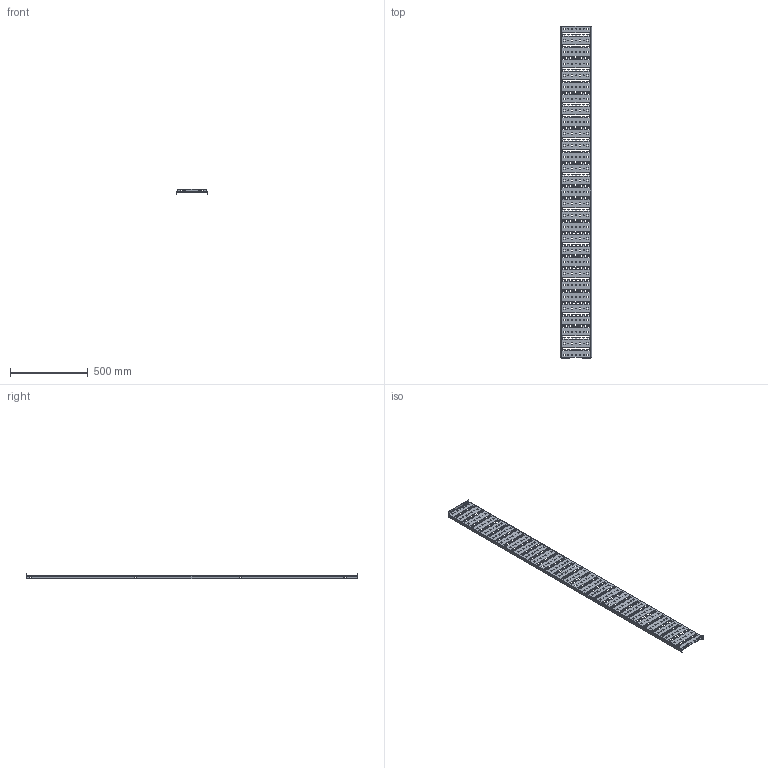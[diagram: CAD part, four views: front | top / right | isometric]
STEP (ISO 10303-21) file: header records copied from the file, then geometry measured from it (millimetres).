
FILE_DESCRIPTION (( 'STEP AP214' ), '1' );
FILE_NAME ('CR 220.20 Êàáåëüíàÿ ïàíåëü.STEP', '2023-11-13T07:45:56', ( '' ), ( '' ), 'SwSTEP 2.0', 'SolidWorks 2022', '' );
FILE_SCHEMA (( 'AUTOMOTIVE_DESIGN' ));
Length unit declared in the file: millimetre
Products named in the file (1): CR 220.20 Кабельная панель
Bounding box: 200 x 2136.6 x 38 mm (x, y, z)
Volume: 817624.3 mm3; surface area: 874760.6 mm2
Topology: 1 solids, 1 shells, 3244 faces, 9714 edges, 6472 vertices
Faces by surface type: plane 2196, cylinder 1048
Entity records: 110004 total; most frequent: CARTESIAN_POINT 19431, ORIENTED_EDGE 19428, DIRECTION 18300, EDGE_CURVE 9714, VECTOR 7618, LINE 7618, VERTEX_POINT 6472, AXIS2_PLACEMENT_3D 5341
